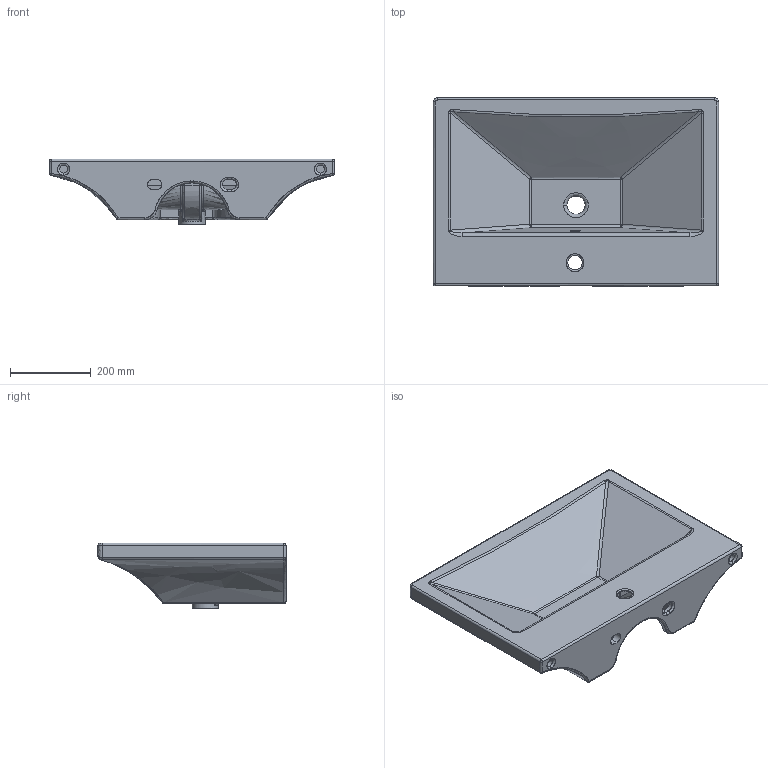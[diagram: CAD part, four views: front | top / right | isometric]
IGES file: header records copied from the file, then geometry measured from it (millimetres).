
Start section: C
Global section: file name: Lavabo Butterfly 70.igs; native system:  By UGS Corp.; preprocessor: XPlus GENERIC/IGES 3.0; author: Author; organization: Title; date: 20120705.093158; units: millimetre
Bounding box: 705 x 465 x 163 mm (x, y, z)
Surface area: 1066786.1 mm2 (no closed solid volume)
Topology: 0 solids, 0 shells, 270 faces, 1250 edges, 1218 vertices
Faces by surface type: bspline 270
